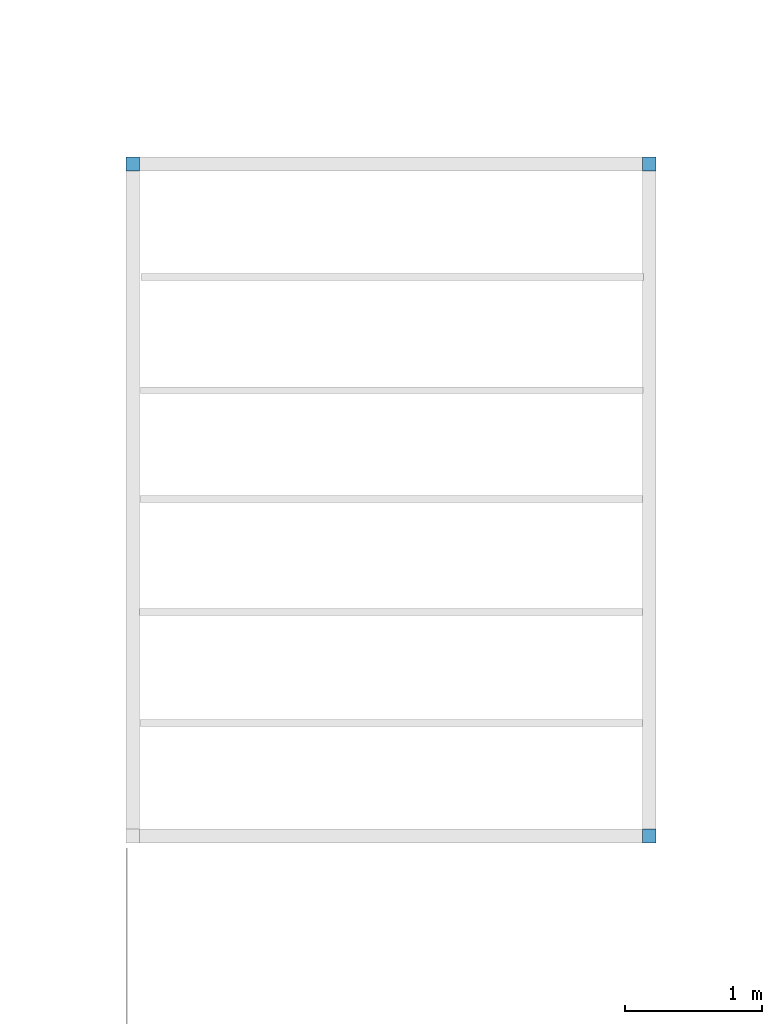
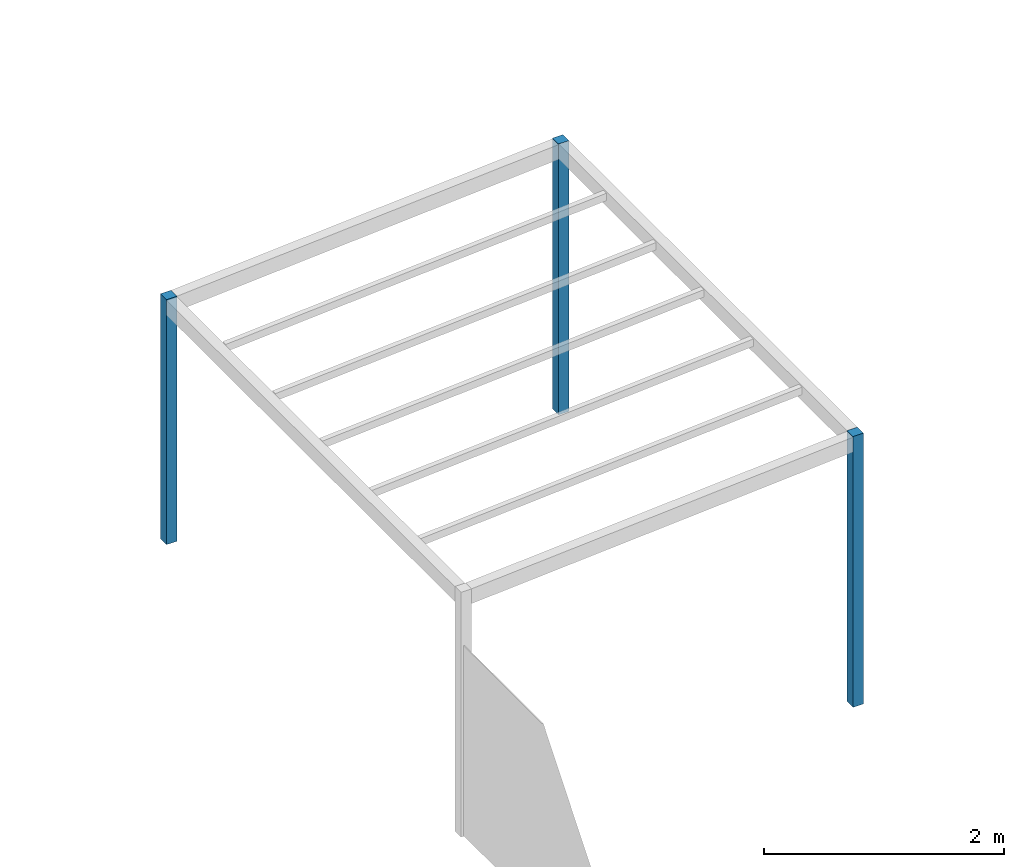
# One storey, part 2 of 4: 3 columns.
"""IFC2X3 building model written with IfcOpenShell, lengths in metres."""

from ifc_helpers import new_model, entity, si_unit, converted_unit, derived_unit, money_unit, direction, frame, origin_with_axes, origin_2d_with_axis, place, context, subcontext, project, spatial, rectangle, extrude, material, type_object, element, save


model = new_model("IFC2X3")

# Units and contexts
model_context = context("Model", 3, precision=1e-05, world=origin_with_axes(), true_north=direction((0.0, 1.0)))
body_context = subcontext(model_context, "Body", "Model", "MODEL_VIEW")
ifc_project = project(units=[si_unit("LENGTHUNIT", "METRE"), si_unit("AREAUNIT", "SQUARE_METRE"), si_unit("VOLUMEUNIT", "CUBIC_METRE"), converted_unit("PLANEANGLEUNIT", "DEGREE", entity("IfcPlaneAngleMeasure", 0.0174532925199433), si_unit("PLANEANGLEUNIT", "RADIAN"), dimensions=[0, 0, 0, 0, 0, 0, 0]), money_unit("EUR"), converted_unit("TIMEUNIT", "Year", entity("IfcTimeMeasure", 31557600.0), si_unit("TIMEUNIT", "SECOND"), dimensions=[0, 0, 1, 0, 0, 0, 0]), si_unit("MASSUNIT", "GRAM", prefix="KILO"), si_unit("THERMODYNAMICTEMPERATUREUNIT", "DEGREE_CELSIUS"), si_unit("LUMINOUSINTENSITYUNIT", "LUMEN"), si_unit("ENERGYUNIT", "JOULE", prefix="MEGA"), derived_unit("THERMALCONDUCTANCEUNIT", [(si_unit("POWERUNIT", "WATT"), 1), (si_unit("LENGTHUNIT", "METRE"), -1), (si_unit("THERMODYNAMICTEMPERATUREUNIT", "KELVIN"), -1)]), derived_unit("SPECIFICHEATCAPACITYUNIT", [(si_unit("ENERGYUNIT", "JOULE"), 1), (si_unit("MASSUNIT", "GRAM", prefix="KILO"), -1), (si_unit("THERMODYNAMICTEMPERATUREUNIT", "KELVIN"), -1)]), derived_unit("MASSDENSITYUNIT", [(si_unit("MASSUNIT", "GRAM", prefix="KILO"), 1), (si_unit("VOLUMEUNIT", "CUBIC_METRE"), -1)])], contexts=[model_context])

# Site, building, storey
site_placement = place(None, origin_with_axes())
site = spatial("IfcSite", under=ifc_project, at=site_placement, Name="Site", CompositionType="ELEMENT")
building_placement = place(site_placement, origin_with_axes())
building = spatial("IfcBuilding", under=site, at=building_placement, Name="Bâtiment", CompositionType="ELEMENT")
storey_placement = place(building_placement, frame((0.0, 0.0, 10.12), z_axis=(0.0, 0.0, 1.0), x_axis=(1.0, 0.0, 0.0)))
storey = spatial("IfcBuildingStorey", under=building, at=storey_placement, Name="Toiture", CompositionType="ELEMENT", Elevation=10.12)

# Columns
ifc_material = material(Name="Aluminium")
column_type = type_object("IfcColumnType", Name="Aluminium 100 x 100", PredefinedType="NOTDEFINED")
for number, where, z_axis, x_axis in (
    (1, (52.74975588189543, 1.164200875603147, -10.12), (0.0, 0.0, 1.0), (1.0, 0.0, 0.0)),
    (2, (52.74975588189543, 6.064036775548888, -10.12), (0.0, 0.0, 1.0), (1.0, 0.0, 0.0)),
):
    element("IfcColumn", number, at=place(storey_placement, frame(where, z_axis=z_axis, x_axis=x_axis)), inside=storey, type_object=column_type, material=ifc_material, Name="PotB-010", context=body_context, shape_type="SweptSolid", body=[
        extrude(rectangle(XDim=0.1, YDim=0.1, at=origin_2d_with_axis()), origin_with_axes(), (0.0, 0.0, 1.0), 2.75050807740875),
    ])
column_placement = place(storey_placement, frame((48.98535477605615, 6.0640367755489, -10.12), z_axis=(0.0, 0.0, 1.0), x_axis=(1.0, 0.0, 0.0)))
element("IfcColumn", 3, at=column_placement, inside=storey, type_object=column_type, material=ifc_material, Name="PotB-010", context=body_context, shape_type="SweptSolid", body=[
    extrude(rectangle(XDim=0.1, YDim=0.1, at=origin_2d_with_axis()), origin_with_axes(), (0.0, 0.0, 1.0), 2.486999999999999),
])

save(model, "model.ifc")
